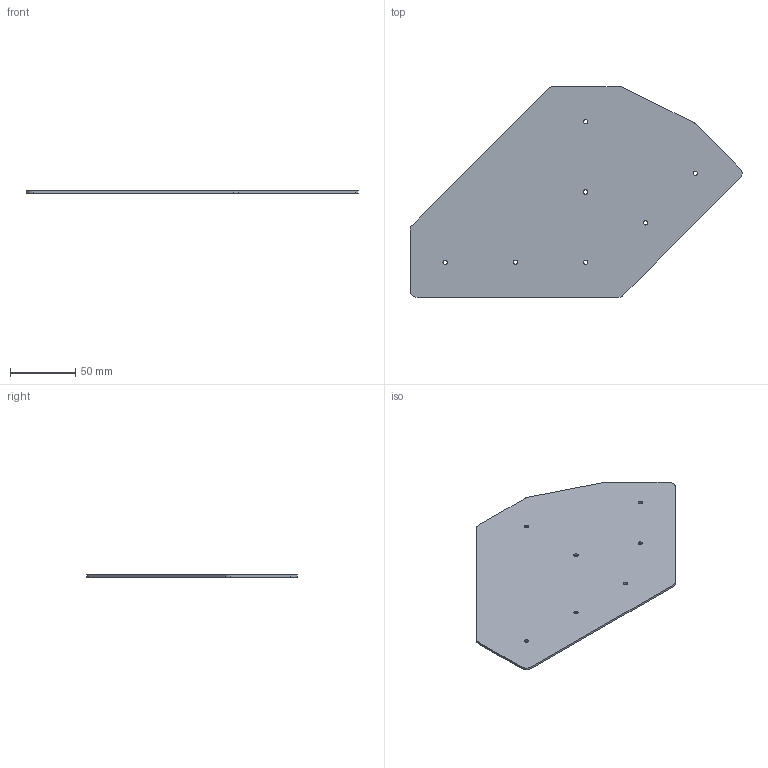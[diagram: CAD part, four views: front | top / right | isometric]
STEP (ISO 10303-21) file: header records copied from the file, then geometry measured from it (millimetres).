
FILE_DESCRIPTION (( 'STEP AP203' ), '1' );
FILE_NAME ('FDPGK-S_2-90135.step', '2019-09-11T19:50:22', ( 'ydmin' ), ( '' ), 'SwSTEP 2.0', 'SolidWorks 2017', '' );
FILE_SCHEMA (( 'CONFIG_CONTROL_DESIGN' ));
Length unit declared in the file: inch
Products named in the file (1): FDPGK-S_2-90135
Bounding box: 255.02 x 161.93 x 1.59 mm (x, y, z)
Volume: 45393.6 mm3; surface area: 58367.4 mm2
Topology: 1 solids, 1 shells, 30 faces, 84 edges, 56 vertices
Faces by surface type: cylinder 21, plane 9
Entity records: 1097 total; most frequent: DIRECTION 188, CARTESIAN_POINT 171, ORIENTED_EDGE 168, EDGE_CURVE 84, AXIS2_PLACEMENT_3D 73, VERTEX_POINT 56, EDGE_LOOP 44, LINE 42
